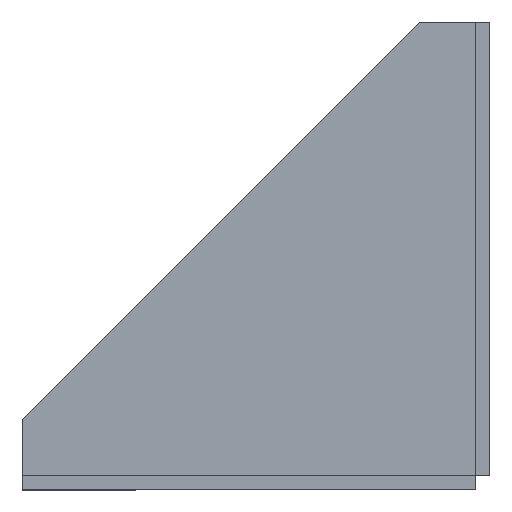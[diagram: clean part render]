
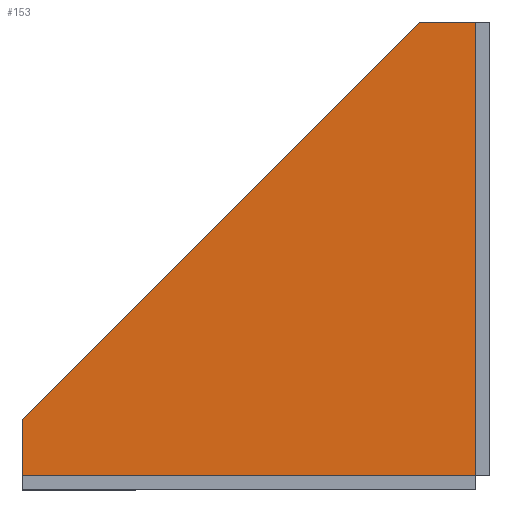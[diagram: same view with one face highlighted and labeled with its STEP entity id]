
A CAD part, top view. The second image highlights one B-rep face of the part: STEP entity #153.
In plain terms, the highlighted planar face has unit normal (0, 0, 1).
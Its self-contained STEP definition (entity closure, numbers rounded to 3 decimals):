
#3 = DIRECTION ( 'NONE',  ( 0., -1., 0. ) ) ;
#4 = ORIENTED_EDGE ( 'NONE', *, *, #347, .T. ) ;
#19 = CARTESIAN_POINT ( 'NONE',  ( -3.01, 3.01, 3. ) ) ;
#24 = LINE ( 'NONE', #686, #726 ) ;
#27 = CARTESIAN_POINT ( 'NONE',  ( 0., 3.01, 3. ) ) ;
#32 = EDGE_CURVE ( 'NONE', #364, #357, #69, .T. ) ;
#36 = VECTOR ( 'NONE', #768, 1000. ) ;
#69 = LINE ( 'NONE', #27, #791 ) ;
#70 = VECTOR ( 'NONE', #695, 1000. ) ;
#81 = AXIS2_PLACEMENT_3D ( 'NONE', #968, #972, #411 ) ;
#102 = VERTEX_POINT ( 'NONE', #442 ) ;
#127 = CARTESIAN_POINT ( 'NONE',  ( -3.01, 3., 3. ) ) ;
#153 = ADVANCED_FACE ( 'NONE', ( #945 ), #1067, .F. ) ;
#185 = EDGE_CURVE ( 'NONE', #1015, #364, #24, .T. ) ;
#198 = EDGE_LOOP ( 'NONE', ( #1002, #614, #988, #596, #1168, #4, #350 ) ) ;
#241 = LINE ( 'NONE', #269, #1194 ) ;
#243 = EDGE_CURVE ( 'NONE', #102, #911, #241, .T. ) ;
#252 = EDGE_CURVE ( 'NONE', #745, #314, #861, .T. ) ;
#269 = CARTESIAN_POINT ( 'NONE',  ( -15., 100., 3. ) ) ;
#314 = VERTEX_POINT ( 'NONE', #900 ) ;
#347 = EDGE_CURVE ( 'NONE', #911, #745, #641, .T. ) ;
#350 = ORIENTED_EDGE ( 'NONE', *, *, #252, .T. ) ;
#357 = VERTEX_POINT ( 'NONE', #558 ) ;
#364 = VERTEX_POINT ( 'NONE', #19 ) ;
#393 = VECTOR ( 'NONE', #659, 1000. ) ;
#411 = DIRECTION ( 'NONE',  ( -1., 0., 0. ) ) ;
#427 = VECTOR ( 'NONE', #3, 1000. ) ;
#442 = CARTESIAN_POINT ( 'NONE',  ( -3., 100., 3. ) ) ;
#450 = CARTESIAN_POINT ( 'NONE',  ( -100., 0., 3. ) ) ;
#463 = CARTESIAN_POINT ( 'NONE',  ( -15., 100., 3. ) ) ;
#476 = CARTESIAN_POINT ( 'NONE',  ( -100., 15., 3. ) ) ;
#558 = CARTESIAN_POINT ( 'NONE',  ( -3., 3.01, 3. ) ) ;
#562 = DIRECTION ( 'NONE',  ( 1., 0., 0. ) ) ;
#596 = ORIENTED_EDGE ( 'NONE', *, *, #1070, .F. ) ;
#614 = ORIENTED_EDGE ( 'NONE', *, *, #185, .T. ) ;
#641 = LINE ( 'NONE', #476, #393 ) ;
#659 = DIRECTION ( 'NONE',  ( -0.707, -0.707, 0. ) ) ;
#686 = CARTESIAN_POINT ( 'NONE',  ( -3.01, 0., 3. ) ) ;
#695 = DIRECTION ( 'NONE',  ( 0., -1., 0. ) ) ;
#707 = EDGE_CURVE ( 'NONE', #1015, #314, #905, .T. ) ;
#726 = VECTOR ( 'NONE', #881, 1000. ) ;
#745 = VERTEX_POINT ( 'NONE', #1154 ) ;
#768 = DIRECTION ( 'NONE',  ( -1., 0., 0. ) ) ;
#791 = VECTOR ( 'NONE', #562, 1000. ) ;
#856 = CARTESIAN_POINT ( 'NONE',  ( -100., 3., 3. ) ) ;
#861 = LINE ( 'NONE', #450, #427 ) ;
#881 = DIRECTION ( 'NONE',  ( 0., 1., 0. ) ) ;
#900 = CARTESIAN_POINT ( 'NONE',  ( -100., 3., 3. ) ) ;
#905 = LINE ( 'NONE', #856, #36 ) ;
#911 = VERTEX_POINT ( 'NONE', #463 ) ;
#945 = FACE_OUTER_BOUND ( 'NONE', #198, .T. ) ;
#968 = CARTESIAN_POINT ( 'NONE',  ( 0., 0., 3. ) ) ;
#972 = DIRECTION ( 'NONE',  ( 0., 0., -1. ) ) ;
#988 = ORIENTED_EDGE ( 'NONE', *, *, #32, .T. ) ;
#1002 = ORIENTED_EDGE ( 'NONE', *, *, #707, .F. ) ;
#1015 = VERTEX_POINT ( 'NONE', #127 ) ;
#1039 = LINE ( 'NONE', #1064, #70 ) ;
#1064 = CARTESIAN_POINT ( 'NONE',  ( -3., 3., 3. ) ) ;
#1067 = PLANE ( 'NONE',  #81 ) ;
#1070 = EDGE_CURVE ( 'NONE', #102, #357, #1039, .T. ) ;
#1154 = CARTESIAN_POINT ( 'NONE',  ( -100., 15., 3. ) ) ;
#1168 = ORIENTED_EDGE ( 'NONE', *, *, #243, .T. ) ;
#1187 = DIRECTION ( 'NONE',  ( -1., 0., 0. ) ) ;
#1194 = VECTOR ( 'NONE', #1187, 1000. ) ;
